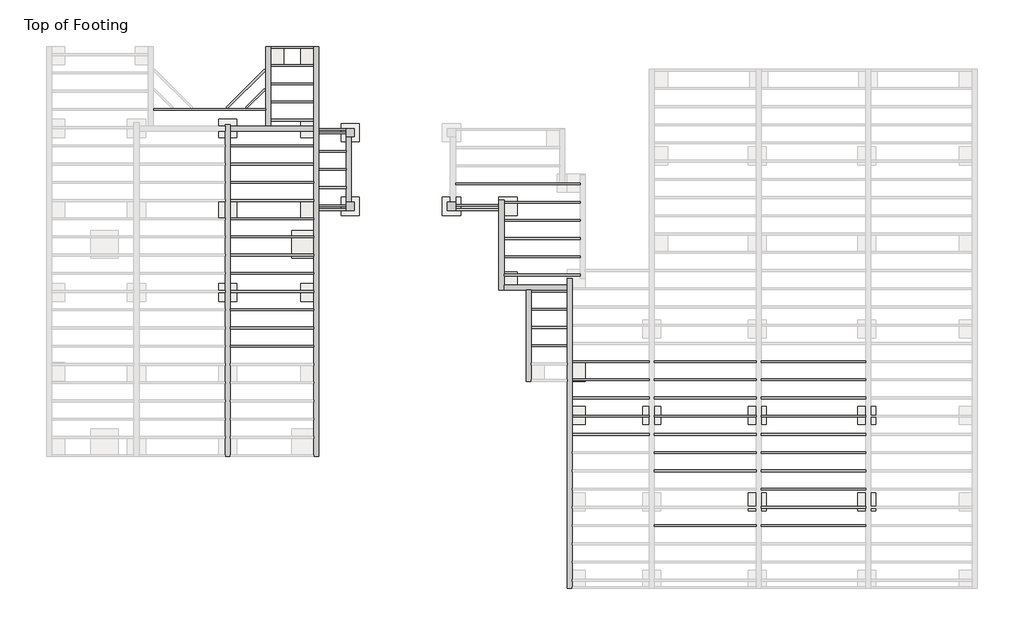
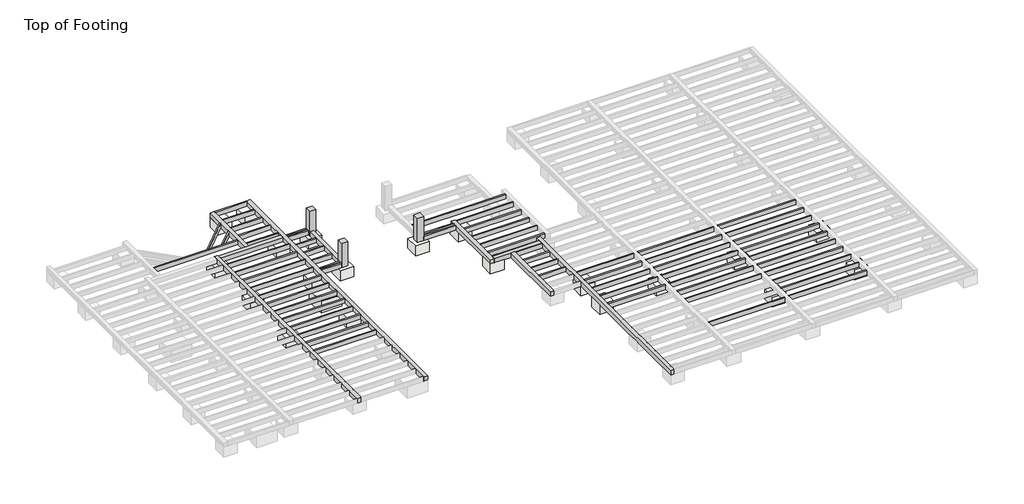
# One storey, part 2 of 3: 71 beams, 21 slabs, 3 columns.
"""IFC4 building model written with IfcOpenShell, lengths in millimetres."""

import ifcopenshell
import ifcopenshell.guid

model = None  # the IFC model being written
_history = None  # IfcOwnerHistory: only IFC2X3 demands one
_inside = {}  # id of a spatial element -> (the spatial element, [elements in it])
_under = {}  # id of a project, library or spatial element -> (it, [spatial elements below it])
_declared = {}  # id of a project -> (the project, [libraries it declares])
_typed = {}  # id of a type object -> (the type object, [elements of that type])
_made_of = {}  # id of a material, layer set ... -> (it, [elements and type objects made of it])


def new_model(schema):
    """Start an empty IFC model of exactly this schema.

    Asked for "IFC4X3", IfcOpenShell would pick the latest addendum, in which some entities
    have other attributes; the version numbers below select the first issue.
    IFC2X3 requires an IfcOwnerHistory on every rooted entity: one is made here for all.
    """
    global model, _history
    if schema == "IFC4X3":
        model = ifcopenshell.file(schema_version=(4, 3, 0, 0))
    else:
        model = ifcopenshell.file(schema=schema)
    _inside.clear()
    _under.clear()
    _declared.clear()
    _typed.clear()
    _made_of.clear()
    _history = None
    if model.schema == "IFC2X3":
        org = make("IfcOrganization", Name="unknown")
        user = make(
            "IfcPersonAndOrganization",
            ThePerson=make("IfcPerson", FamilyName="unknown"),
            TheOrganization=org,
        )
        app = make(
            "IfcApplication",
            ApplicationDeveloper=org,
            Version="unknown",
            ApplicationFullName="unknown",
            ApplicationIdentifier="unknown",
        )
        _history = make(
            "IfcOwnerHistory",
            OwningUser=user,
            OwningApplication=app,
            ChangeAction="ADDED",
            CreationDate=0,
        )
    return model


def make(cls, **values):
    """One entity of the class cls with the attributes given. An attribute that is None is left unset."""
    return model.create_entity(
        cls, **{name: value for name, value in values.items() if value is not None}
    )


def rooted(cls, **values):
    """An entity with a GlobalId (a new one), such as an element, a storey or a relation."""
    return make(cls, GlobalId=ifcopenshell.guid.new(), OwnerHistory=_history, **values)


def si_unit(unit_type, name, prefix=None):
    """IfcSIUnit, for example si_unit("LENGTHUNIT", "METRE", prefix="MILLI")."""
    return make("IfcSIUnit", UnitType=unit_type, Prefix=prefix, Name=name)


def assignment(units):
    """IfcUnitAssignment: the units of a project."""
    return None if units is None else make("IfcUnitAssignment", Units=units)


def point(xyz):
    """IfcCartesianPoint."""
    return None if xyz is None else make("IfcCartesianPoint", Coordinates=xyz)


def direction(xyz):
    """IfcDirection."""
    return None if xyz is None else make("IfcDirection", DirectionRatios=xyz)


def frame(location, z_axis=None, x_axis=None):
    """IfcAxis2Placement3D, a coordinate frame: its origin and axes. An axis left out is left unset."""
    return make(
        "IfcAxis2Placement3D",
        Location=point(location),
        Axis=direction(z_axis),
        RefDirection=direction(x_axis),
    )


def origin():
    """The frame at (0, 0, 0) with its axes left unset."""
    return frame((0.0, 0.0, 0.0))


def place(relative_to, where):
    """IfcLocalPlacement: puts the frame where relative to a parent placement (None: the world)."""
    return make(
        "IfcLocalPlacement", PlacementRelTo=relative_to, RelativePlacement=where
    )


def context(
    kind, dimensions, precision=None, world=None, true_north=None, identifier=None
):
    """IfcGeometricRepresentationContext, for example the 3D "Model" context."""
    return make(
        "IfcGeometricRepresentationContext",
        ContextIdentifier=identifier,
        ContextType=kind,
        CoordinateSpaceDimension=dimensions,
        Precision=precision,
        WorldCoordinateSystem=world,
        TrueNorth=true_north,
    )


def project(units=None, contexts=None):
    """IfcProject with its units and contexts."""
    return rooted(
        "IfcProject",
        Name="project",
        RepresentationContexts=contexts,
        UnitsInContext=assignment(units),
    )


def spatial(cls, under=None, at=None, **own):
    """A site, building, storey or space (cls), placed at a placement, below another one or the project."""
    s = rooted(cls, ObjectPlacement=at, **own)
    if under is not None:
        _under.setdefault(under.id(), (under, []))[1].append(s)
    return s


def polyline(points):
    """IfcPolyline through the points."""
    return make("IfcPolyline", Points=[point(p) for p in points])


def outline(outer, holes=None, kind="AREA"):
    """IfcArbitraryClosedProfileDef: a profile drawn as a closed curve; with holes, ...WithVoids."""
    if holes is None:
        return make("IfcArbitraryClosedProfileDef", ProfileType=kind, OuterCurve=outer)
    return make(
        "IfcArbitraryProfileDefWithVoids",
        ProfileType=kind,
        OuterCurve=outer,
        InnerCurves=holes,
    )


def extrude(swept, where, along, depth):
    """IfcExtrudedAreaSolid: the profile swept, set in the frame where, extruded along a direction by depth."""
    return make(
        "IfcExtrudedAreaSolid",
        SweptArea=swept,
        Position=where,
        ExtrudedDirection=direction(along),
        Depth=depth,
    )


def shape(context_of_items, identifier, shape_type, items):
    """IfcShapeRepresentation: the items that make up one representation, for example the "Body"."""
    return make(
        "IfcShapeRepresentation",
        ContextOfItems=context_of_items,
        RepresentationIdentifier=identifier,
        RepresentationType=shape_type,
        Items=items,
    )


def source(mapping_origin, context_of_items, identifier, shape_type, items):
    """IfcRepresentationMap: a shape defined once, which mapped items show again and again."""
    return make(
        "IfcRepresentationMap",
        MappingOrigin=mapping_origin,
        MappedRepresentation=shape(context_of_items, identifier, shape_type, items),
    )


def transform(
    local_origin,
    x_axis=None,
    y_axis=None,
    z_axis=None,
    scale=None,
    scale2=None,
    scale3=None,
    uniform=True,
):
    """IfcCartesianTransformationOperator3D, or its non-uniform kind. x_axis, y_axis, z_axis: its Axis1, 2, 3."""
    if uniform:
        return make(
            "IfcCartesianTransformationOperator3D",
            Axis1=direction(x_axis),
            Axis2=direction(y_axis),
            LocalOrigin=point(local_origin),
            Scale=scale,
            Axis3=direction(z_axis),
        )
    return make(
        "IfcCartesianTransformationOperator3DnonUniform",
        Axis1=direction(x_axis),
        Axis2=direction(y_axis),
        LocalOrigin=point(local_origin),
        Scale=scale,
        Axis3=direction(z_axis),
        Scale2=scale2,
        Scale3=scale3,
    )


def mapped(mapping_source, mapping_target):
    """IfcMappedItem: shows the shape of a source again, moved by a transform."""
    return make(
        "IfcMappedItem", MappingSource=mapping_source, MappingTarget=mapping_target
    )


def made_of(thing, what):
    """Note that an element or type object is made of a material, layer set ...; save() writes the relation."""
    if what is not None:
        _made_of.setdefault(what.id(), (what, []))[1].append(thing)
    return thing


def element(
    cls,
    number,
    at=None,
    inside=None,
    cuts=None,
    type_object=None,
    material=None,
    context=None,
    identifier="Body",
    shape_type=None,
    held_by="IfcProductDefinitionShape",
    body=None,
    shapes=None,
    **own,
):
    """One element of the class cls, such as IfcWall. Its Tag is "e" and its number.

    at: its placement. inside: the storey or other place that contains it. cuts: it is an
    opening in that element (IfcRelVoidsElement). A single representation is given by context,
    identifier, shape_type and body (its items); several are given by shapes. held_by: the class
    of the entity that holds the representations. save() writes the other relations.
    """
    e = rooted(cls, Tag="e%d" % number, ObjectPlacement=at, **own)
    if body is not None:
        shapes = [shape(context, identifier, shape_type, body)]
    if shapes is not None:
        e.Representation = make(held_by, Representations=shapes)
    if inside is not None:
        _inside.setdefault(inside.id(), (inside, []))[1].append(e)
    if cuts is not None:
        rooted(
            "IfcRelVoidsElement", RelatingBuildingElement=cuts, RelatedOpeningElement=e
        )
    if type_object is not None:
        _typed.setdefault(type_object.id(), (type_object, []))[1].append(e)
    return made_of(e, material)


def aggregate(whole, parts):
    """IfcRelAggregates: a whole, such as a stair, and the parts it consists of."""
    return rooted("IfcRelAggregates", RelatingObject=whole, RelatedObjects=parts)


def save(model, path):
    """Write the relations noted so far, then the file.

    IfcRelAggregates (storeys below a building ...), IfcRelContainedInSpatialStructure (elements
    in a storey), IfcRelDefinesByType, IfcRelAssociatesMaterial and IfcRelDeclares: one each for
    every whole, place, type object, material and project.
    """
    for whole, parts in _under.values():
        aggregate(whole, parts)
    for where, things in _inside.values():
        rooted(
            "IfcRelContainedInSpatialStructure",
            RelatedElements=things,
            RelatingStructure=where,
        )
    for kind, things in _typed.values():
        rooted("IfcRelDefinesByType", RelatedObjects=things, RelatingType=kind)
    for what, things in _made_of.values():
        rooted("IfcRelAssociatesMaterial", RelatedObjects=things, RelatingMaterial=what)
    for by, libraries in _declared.values():
        rooted("IfcRelDeclares", RelatingContext=by, RelatedDefinitions=libraries)
    model.write(path)


def dimension_lumber_1_2x_x6_41abae22(model_context):
    return source(origin(), model_context, "Body", "SweptSolid", [
        extrude(outline(polyline([(1249.9848, 19.05), (1249.9848, -19.05), (-1249.9848, -19.05), (-1249.9848, 19.05), (1249.9848, 19.05)])), frame((0.0, 0.0, -69.85), z_axis=(0.0, 0.0, 1.0), x_axis=(1.0, 0.0, 0.0)), (0.0, 0.0, 1.0), 139.7),
    ])


def dimension_lumber_1_2x_x6_194c576a(model_context):
    return source(origin(), model_context, "Body", "SweptSolid", [
        extrude(outline(polyline([(1162.05, 19.05), (1162.05, -19.05), (-1162.05, -19.05), (-1162.05, 19.05), (1162.05, 19.05)])), frame((0.0, 0.0, -69.85), z_axis=(0.0, 0.0, 1.0), x_axis=(1.0, 0.0, 0.0)), (0.0, 0.0, 1.0), 139.7),
    ])


def dimension_lumber_1_2x_x6_e8a41e7e(model_context):
    return source(origin(), model_context, "Body", "SweptSolid", [
        extrude(outline(polyline([(930.275, 19.05), (930.275, -19.05), (-930.275, -19.05), (-930.275, 19.05), (930.275, 19.05)])), frame((0.0, 0.0, -69.85), z_axis=(0.0, 0.0, 1.0), x_axis=(1.0, 0.0, 0.0)), (0.0, 0.0, 1.0), 139.7),
    ])


def dimension_lumber_1_2x_x6_c52428c3(model_context):
    return source(origin(), model_context, "Body", "SweptSolid", [
        extrude(outline(polyline([(574.2575614, 19.05), (574.2575614, -19.05), (-628.1390981, -19.05), (-628.1390981, 19.05), (574.2575614, 19.05)])), frame((0.0, 0.0, -69.85), z_axis=(0.0, 0.0, 1.0), x_axis=(1.0, 0.0, 0.0)), (0.0, 0.0, 1.0), 139.7),
    ])


def dimension_lumber_1_2x_x6_213a55a6(model_context):
    return source(origin(), model_context, "Body", "SweptSolid", [
        extrude(outline(polyline([(270.1501681, 19.05), (270.1501681, -19.05), (-315.3180038, -19.05), (-315.3180038, 19.05), (270.1501681, 19.05)])), frame((0.0, 0.0, -69.85), z_axis=(0.0, 0.0, 1.0), x_axis=(1.0, 0.0, 0.0)), (0.0, 0.0, 1.0), 139.7),
    ])


def dimension_lumber_1_2x_x6_e73aef81(model_context):
    return source(origin(), model_context, "Body", "SweptSolid", [
        extrude(outline(polyline([(333.3749994, 19.05), (333.3749994, -19.05), (-276.225, -19.05), (-276.225, 19.05), (333.3749994, 19.05)])), frame((0.0, 0.0, -69.85), z_axis=(0.0, 0.0, 1.0), x_axis=(1.0, 0.0, 0.0)), (0.0, 0.0, 1.0), 139.7),
    ])


def dimension_lumber_1_2x_x6_f9579439(model_context):
    return source(origin(), model_context, "Body", "SweptSolid", [
        extrude(outline(polyline([(850.9, 19.05), (850.9, -19.05), (-850.9, -19.05), (-850.9, 19.05), (850.9, 19.05)])), frame((0.0, 0.0, -69.85), z_axis=(0.0, 0.0, 1.0), x_axis=(1.0, 0.0, 0.0)), (0.0, 0.0, 1.0), 139.7),
    ])


def dimension_lumber_1_2x_x6_1f1d5409(model_context):
    return source(origin(), model_context, "Body", "SweptSolid", [
        extrude(outline(polyline([(304.8, 19.05), (304.8, -19.05), (-304.8, -19.05), (-304.8, 19.05), (304.8, 19.05)])), frame((0.0, 0.0, -69.85), z_axis=(0.0, 0.0, 1.0), x_axis=(1.0, 0.0, 0.0)), (0.0, 0.0, 1.0), 139.7),
    ])


def dimension_lumber_1_2x_x6_5ffdb31a(model_context):
    return source(origin(), model_context, "Body", "SweptSolid", [
        extrude(outline(polyline([(1390.65, 19.05), (1390.65, -19.05), (-1390.65, -19.05), (-1390.65, 19.05), (1390.65, 19.05)])), frame((0.0, 0.0, -69.85), z_axis=(0.0, 0.0, 1.0), x_axis=(1.0, 0.0, 0.0)), (0.0, 0.0, 1.0), 139.7),
    ])


def dimension_lumber_1_2x_x6_848c9500(model_context):
    return source(origin(), model_context, "Body", "SweptSolid", [
        extrude(outline(polyline([(857.25, 19.05), (857.25, -19.05), (-857.25, -19.05), (-857.25, 19.05), (857.25, 19.05)])), frame((0.0, 0.0, -69.85), z_axis=(0.0, 0.0, 1.0), x_axis=(1.0, 0.0, 0.0)), (0.0, 0.0, 1.0), 139.7),
    ])


def dimension_lumber_1_2x_x6_d0225624(model_context):
    return source(origin(), model_context, "Body", "SweptSolid", [
        extrude(outline(polyline([(400.05, 19.05), (400.05, -19.05), (-400.05, -19.05), (-400.05, 19.05), (400.05, 19.05)])), frame((0.0, 0.0, -69.85), z_axis=(0.0, 0.0, 1.0), x_axis=(1.0, 0.0, 0.0)), (0.0, 0.0, 1.0), 139.7),
    ])


def dimension_lumber_1_2x_x6_05b95841(model_context):
    return source(origin(), model_context, "Body", "SweptSolid", [
        extrude(outline(polyline([(454.025, 19.05), (454.025, -19.05), (-511.1749994, -19.05), (-511.1749994, 19.05), (454.025, 19.05)])), frame((0.0, 0.0, -69.85), z_axis=(0.0, 0.0, 1.0), x_axis=(1.0, 0.0, 0.0)), (0.0, 0.0, 1.0), 139.7),
    ])


def dimension_lumber_1_2x_x6_9289383a(model_context):
    return source(origin(), model_context, "Body", "SweptSolid", [
        extrude(outline(polyline([(1133.475, 19.05), (1133.475, -19.05), (-1133.475, -19.05), (-1133.475, 19.05), (1133.475, 19.05)])), frame((0.0, 0.0, -69.85), z_axis=(0.0, 0.0, 1.0), x_axis=(1.0, 0.0, 0.0)), (0.0, 0.0, 1.0), 139.7),
    ])


def dimension_lumber_1_2x_x6_4de82955(model_context):
    return source(origin(), model_context, "Body", "SweptSolid", [
        extrude(outline(polyline([(451.3326, 19.05), (451.3326, -19.05), (-508.4826, -19.05), (-508.4826, 19.05), (451.3326, 19.05)])), frame((0.0, 0.0, -69.85), z_axis=(0.0, 0.0, 1.0), x_axis=(1.0, 0.0, 0.0)), (0.0, 0.0, 1.0), 139.7),
    ])


def dimension_lumber_1_2x_x6_9cb2d545(model_context):
    return source(origin(), model_context, "Body", "SweptSolid", [
        extrude(outline(polyline([(479.9076, 19.05), (479.9076, -19.05), (-479.9076, -19.05), (-479.9076, 19.05), (479.9076, 19.05)])), frame((0.0, 0.0, -69.85), z_axis=(0.0, 0.0, 1.0), x_axis=(1.0, 0.0, 0.0)), (0.0, 0.0, 1.0), 139.7),
    ])


def dimension_lumber_3_2x_x6_8adfc0e5(model_context):
    return source(origin(), model_context, "Body", "SweptSolid", [
        extrude(outline(polyline([(930.275, -57.15), (-930.275, -57.15), (-930.275, 57.15), (930.275, 57.15), (930.275, -57.15)])), frame((0.0, 0.0, -69.85), z_axis=(0.0, 0.0, 1.0), x_axis=(1.0, 0.0, 0.0)), (0.0, 0.0, 1.0), 139.7),
    ])


def dimension_lumber_3_2x_x6_fe3bc0c2(model_context):
    return source(origin(), model_context, "Body", "SweptSolid", [
        extrude(outline(polyline([(746.7854, -57.15), (-1024.8646, -57.15), (-1024.8646, 57.15), (746.7854, 57.15), (746.7854, -57.15)])), frame((0.0, 0.0, -69.85), z_axis=(0.0, 0.0, 1.0), x_axis=(1.0, 0.0, 0.0)), (0.0, 0.0, 1.0), 139.7),
    ])


def dimension_lumber_3_2x_x6_7889dbe4(model_context):
    return source(origin(), model_context, "Body", "SweptSolid", [
        extrude(outline(polyline([(4603.75, 57.15), (4603.75, -57.15), (-4540.25, -57.15), (-4540.25, 57.15), (4603.75, 57.15)])), frame((0.0, 0.0, -69.85), z_axis=(0.0, 0.0, 1.0), x_axis=(1.0, 0.0, 0.0)), (0.0, 0.0, 1.0), 139.7),
    ])


def dimension_lumber_3_2x_x6_e14e15ca(model_context):
    return source(origin(), model_context, "Body", "SweptSolid", [
        extrude(outline(polyline([(3698.875, 57.15), (3698.875, -57.15), (-3697.605, -57.15), (-3697.605, 57.15), (3698.875, 57.15)])), frame((0.0, 0.0, -69.85), z_axis=(0.0, 0.0, 1.0), x_axis=(1.0, 0.0, 0.0)), (0.0, 0.0, 1.0), 139.7),
    ])


def dimension_lumber_3_2x_x6_f6200c4b(model_context):
    return source(origin(), model_context, "Body", "SweptSolid", [
        extrude(outline(polyline([(711.2, 57.15), (711.2, -57.15), (-749.3, -57.15), (-749.3, 57.15), (711.2, 57.15)])), frame((0.0, 0.0, -69.85), z_axis=(0.0, 0.0, 1.0), x_axis=(1.0, 0.0, 0.0)), (0.0, 0.0, 1.0), 139.7),
    ])


def dimension_lumber_3_2x_x6_c5758202(model_context):
    return source(origin(), model_context, "Body", "SweptSolid", [
        extrude(outline(polyline([(1011.9868, 57.15), (1011.9868, -57.15), (-999.2868, -57.15), (-999.2868, 57.15), (1011.9868, 57.15)])), frame((0.0, 0.0, -69.85), z_axis=(0.0, 0.0, 1.0), x_axis=(1.0, 0.0, 0.0)), (0.0, 0.0, 1.0), 139.7),
    ])


def dimension_lumber_3_2x_x6_f7559ddf(model_context):
    return source(origin(), model_context, "Body", "SweptSolid", [
        extrude(outline(polyline([(702.564, 57.15), (702.564, -57.15), (-751.586, -57.15), (-751.586, 57.15), (702.564, 57.15)])), frame((0.0, 0.0, -69.85), z_axis=(0.0, 0.0, 1.0), x_axis=(1.0, 0.0, 0.0)), (0.0, 0.0, 1.0), 139.7),
    ])


def dimension_lumber_3_2x_x6_ef7e8fa2(model_context):
    return source(origin(), model_context, "Body", "SweptSolid", [
        extrude(outline(polyline([(1054.1, 57.15), (1054.1, -57.15), (-977.9, -57.15), (-977.9, 57.15), (1054.1, 57.15)])), frame((0.0, 0.0, -69.85), z_axis=(0.0, 0.0, 1.0), x_axis=(1.0, 0.0, 0.0)), (0.0, 0.0, 1.0), 139.7),
    ])


def dimension_lumber_3_2x_x6_6d176412(model_context):
    return source(origin(), model_context, "Body", "SweptSolid", [
        extrude(outline(polyline([(3456.559, 57.15), (3456.559, -57.15), (-3452.241, -57.15), (-3452.241, 57.15), (3456.559, 57.15)])), frame((0.0, 0.0, -69.85), z_axis=(0.0, 0.0, 1.0), x_axis=(1.0, 0.0, 0.0)), (0.0, 0.0, 1.0), 139.7),
    ])


def dimension_lumber_column_8x8_2579570d(model_context):
    return source(origin(), model_context, "Body", "SweptSolid", [
        extrude(outline(polyline([(92.075, 92.075), (92.075, -92.075), (-92.075, -92.075), (-92.075, 92.075), (92.075, 92.075)])), frame((0.0, 0.0, -158.75), z_axis=(0.0, 0.0, 1.0), x_axis=(1.0, 0.0, 0.0)), (0.0, 0.0, 1.0), 768.35),
    ])


def footing_rectangular_16x16x14_90ff128c(model_context):
    return source(origin(), model_context, "Body", "SweptSolid", [
        extrude(outline(polyline([(203.2, 203.2), (203.2, -203.2), (-203.2, -203.2), (-203.2, 203.2), (203.2, 203.2)])), frame((0.0, 0.0, -304.8), z_axis=(0.0, 0.0, 1.0), x_axis=(1.0, 0.0, 0.0)), (0.0, 0.0, 1.0), 304.8),
    ])


def footing_rectangular_16x16x14_b055683a(model_context):
    return source(origin(), model_context, "Body", "SweptSolid", [
        extrude(outline(polyline([(203.2, -203.2), (-203.2, -203.2), (-203.2, 203.2), (203.2, 203.2), (203.2, -203.2)])), frame((0.0, 0.0, -304.8), z_axis=(0.0, 0.0, 1.0), x_axis=(1.0, 0.0, 0.0)), (0.0, 0.0, 1.0), 304.8),
    ])


def footing_rectangular_pergola_footing_7bc68983(model_context):
    return source(origin(), model_context, "Body", "SweptSolid", [
        extrude(outline(polyline([(304.8, 304.8), (304.8, -304.8), (-304.8, -304.8), (-304.8, 304.8), (304.8, 304.8)])), frame((0.0, 0.0, -355.6), z_axis=(0.0, 0.0, 1.0), x_axis=(1.0, 0.0, 0.0)), (0.0, 0.0, 1.0), 355.6),
    ])


model = new_model("IFC4")

# Units and contexts
model_context = context("Model", 3, world=origin())
ifc_project = project(units=[si_unit("LENGTHUNIT", "METRE", prefix="MILLI")], contexts=[model_context])

# Site, building, storey
site = spatial("IfcSite", under=ifc_project)
building = spatial("IfcBuilding", under=site)
storey = spatial("IfcBuildingStorey", under=building, Name="Top of Footing", Elevation=-158.75)

# Beams
placement = place(None, origin())
dimension_lumber_1_2x_x6_shape = dimension_lumber_1_2x_x6_41abae22(model_context)
element("IfcBeam", 1, ObjectType="Dimension Lumber (1) 2x : x6", at=placement, inside=storey, context=model_context, shape_type="MappedRepresentation", body=[
    mapped(dimension_lumber_1_2x_x6_shape, transform((291.4788706, -2598.9939898, -88.9), x_axis=(1.0, 0.0, 0.0), y_axis=(0.0, 1.0, 0.0), z_axis=(0.0, 0.0, 1.0))),
])
dimension_lumber_1_2x_x6_2_shape = dimension_lumber_1_2x_x6_194c576a(model_context)
element("IfcBeam", 2, ObjectType="Dimension Lumber (1) 2x : x6", at=placement, inside=storey, context=model_context, shape_type="MappedRepresentation", body=[
    mapped(dimension_lumber_1_2x_x6_2_shape, transform((13753.4788706, -8225.0939898, -88.9), x_axis=(1.0, 0.0, 0.0), y_axis=(0.0, 1.0, 0.0), z_axis=(0.0, 0.0, 1.0))),
])
element("IfcBeam", 3, ObjectType="Dimension Lumber (1) 2x : x6", at=placement, inside=storey, context=model_context, shape_type="MappedRepresentation", body=[
    mapped(dimension_lumber_1_2x_x6_2_shape, transform((13753.4788706, -8631.4939898, -88.9), x_axis=(1.0, 0.0, 0.0), y_axis=(0.0, 1.0, 0.0), z_axis=(0.0, 0.0, 1.0))),
])
element("IfcBeam", 4, ObjectType="Dimension Lumber (1) 2x : x6", at=placement, inside=storey, context=model_context, shape_type="MappedRepresentation", body=[
    mapped(dimension_lumber_1_2x_x6_2_shape, transform((13753.4788706, -9037.8939898, -88.9), x_axis=(1.0, 0.0, 0.0), y_axis=(0.0, 1.0, 0.0), z_axis=(0.0, 0.0, 1.0))),
])
element("IfcBeam", 5, ObjectType="Dimension Lumber (1) 2x : x6", at=placement, inside=storey, context=model_context, shape_type="MappedRepresentation", body=[
    mapped(dimension_lumber_1_2x_x6_2_shape, transform((13753.4788706, -9444.2939898, -88.9), x_axis=(1.0, 0.0, 0.0), y_axis=(0.0, 1.0, 0.0), z_axis=(0.0, 0.0, 1.0))),
])
element("IfcBeam", 6, ObjectType="Dimension Lumber (1) 2x : x6", at=placement, inside=storey, context=model_context, shape_type="MappedRepresentation", body=[
    mapped(dimension_lumber_1_2x_x6_2_shape, transform((13753.4788706, -9850.6939898, -88.9), x_axis=(1.0, 0.0, 0.0), y_axis=(0.0, 1.0, 0.0), z_axis=(0.0, 0.0, 1.0))),
])
element("IfcBeam", 7, ObjectType="Dimension Lumber (1) 2x : x6", at=placement, inside=storey, context=model_context, shape_type="MappedRepresentation", body=[
    mapped(dimension_lumber_1_2x_x6_2_shape, transform((13753.4788706, -10257.0939898, -88.9), x_axis=(1.0, 0.0, 0.0), y_axis=(0.0, 1.0, 0.0), z_axis=(0.0, 0.0, 1.0))),
])
element("IfcBeam", 8, ObjectType="Dimension Lumber (1) 2x : x6", at=placement, inside=storey, context=model_context, shape_type="MappedRepresentation", body=[
    mapped(dimension_lumber_1_2x_x6_2_shape, transform((13753.4788706, -10663.4939898, -88.9), x_axis=(1.0, 0.0, 0.0), y_axis=(0.0, 1.0, 0.0), z_axis=(0.0, 0.0, 1.0))),
])
element("IfcBeam", 9, ObjectType="Dimension Lumber (1) 2x : x6", at=placement, inside=storey, context=model_context, shape_type="MappedRepresentation", body=[
    mapped(dimension_lumber_1_2x_x6_2_shape, transform((13753.4788706, -11069.8939898, -88.9), x_axis=(1.0, 0.0, 0.0), y_axis=(0.0, 1.0, 0.0), z_axis=(0.0, 0.0, 1.0))),
])
element("IfcBeam", 10, ObjectType="Dimension Lumber (1) 2x : x6", at=placement, inside=storey, context=model_context, shape_type="MappedRepresentation", body=[
    mapped(dimension_lumber_1_2x_x6_2_shape, transform((13753.4788706, -11476.2939898, -88.9), x_axis=(1.0, 0.0, 0.0), y_axis=(0.0, 1.0, 0.0), z_axis=(0.0, 0.0, 1.0))),
])
element("IfcBeam", 11, ObjectType="Dimension Lumber (1) 2x : x6", at=placement, inside=storey, context=model_context, shape_type="MappedRepresentation", body=[
    mapped(dimension_lumber_1_2x_x6_2_shape, transform((13753.4788706, -11882.6939898, -88.9), x_axis=(1.0, 0.0, 0.0), y_axis=(0.0, 1.0, 0.0), z_axis=(0.0, 0.0, 1.0))),
])
dimension_lumber_1_2x_x6_3_shape = dimension_lumber_1_2x_x6_e8a41e7e(model_context)
element("IfcBeam", 12, ObjectType="Dimension Lumber (1) 2x : x6", at=placement, inside=storey, context=model_context, shape_type="MappedRepresentation", body=[
    mapped(dimension_lumber_1_2x_x6_3_shape, transform((1685.3038706, -3411.7939898, -88.9), x_axis=(1.0, 0.0, 0.0), y_axis=(0.0, 1.0, 0.0), z_axis=(0.0, 0.0, 1.0))),
])
element("IfcBeam", 13, ObjectType="Dimension Lumber (1) 2x : x6", at=placement, inside=storey, context=model_context, shape_type="MappedRepresentation", body=[
    mapped(dimension_lumber_1_2x_x6_3_shape, transform((1685.3038706, -3818.1939898, -88.9), x_axis=(1.0, 0.0, 0.0), y_axis=(0.0, 1.0, 0.0), z_axis=(0.0, 0.0, 1.0))),
])
element("IfcBeam", 14, ObjectType="Dimension Lumber (1) 2x : x6", at=placement, inside=storey, context=model_context, shape_type="MappedRepresentation", body=[
    mapped(dimension_lumber_1_2x_x6_3_shape, transform((1685.3038706, -4224.5939898, -88.9), x_axis=(1.0, 0.0, 0.0), y_axis=(0.0, 1.0, 0.0), z_axis=(0.0, 0.0, 1.0))),
])
element("IfcBeam", 15, ObjectType="Dimension Lumber (1) 2x : x6", at=placement, inside=storey, context=model_context, shape_type="MappedRepresentation", body=[
    mapped(dimension_lumber_1_2x_x6_3_shape, transform((1685.3038706, -4630.9939898, -88.9), x_axis=(1.0, 0.0, 0.0), y_axis=(0.0, 1.0, 0.0), z_axis=(0.0, 0.0, 1.0))),
])
element("IfcBeam", 16, ObjectType="Dimension Lumber (1) 2x : x6", at=placement, inside=storey, context=model_context, shape_type="MappedRepresentation", body=[
    mapped(dimension_lumber_1_2x_x6_3_shape, transform((1685.3038706, -5037.3939898, -88.9), x_axis=(1.0, 0.0, 0.0), y_axis=(0.0, 1.0, 0.0), z_axis=(0.0, 0.0, 1.0))),
])
element("IfcBeam", 17, ObjectType="Dimension Lumber (1) 2x : x6", at=placement, inside=storey, context=model_context, shape_type="MappedRepresentation", body=[
    mapped(dimension_lumber_1_2x_x6_3_shape, transform((1685.3038706, -5443.7939898, -88.9), x_axis=(1.0, 0.0, 0.0), y_axis=(0.0, 1.0, 0.0), z_axis=(0.0, 0.0, 1.0))),
])
element("IfcBeam", 18, ObjectType="Dimension Lumber (1) 2x : x6", at=placement, inside=storey, context=model_context, shape_type="MappedRepresentation", body=[
    mapped(dimension_lumber_1_2x_x6_3_shape, transform((1685.3038706, -5850.1939898, -88.9), x_axis=(1.0, 0.0, 0.0), y_axis=(0.0, 1.0, 0.0), z_axis=(0.0, 0.0, 1.0))),
])
element("IfcBeam", 19, ObjectType="Dimension Lumber (1) 2x : x6", at=placement, inside=storey, context=model_context, shape_type="MappedRepresentation", body=[
    mapped(dimension_lumber_1_2x_x6_3_shape, transform((1685.3038706, -6256.5939898, -88.9), x_axis=(1.0, 0.0, 0.0), y_axis=(0.0, 1.0, 0.0), z_axis=(0.0, 0.0, 1.0))),
])
element("IfcBeam", 20, ObjectType="Dimension Lumber (1) 2x : x6", at=placement, inside=storey, context=model_context, shape_type="MappedRepresentation", body=[
    mapped(dimension_lumber_1_2x_x6_3_shape, transform((1685.3038706, -6662.9939898, -88.9), x_axis=(1.0, 0.0, 0.0), y_axis=(0.0, 1.0, 0.0), z_axis=(0.0, 0.0, 1.0))),
])
element("IfcBeam", 21, ObjectType="Dimension Lumber (1) 2x : x6", at=placement, inside=storey, context=model_context, shape_type="MappedRepresentation", body=[
    mapped(dimension_lumber_1_2x_x6_3_shape, transform((1685.3038706, -7069.3939898, -88.9), x_axis=(1.0, 0.0, 0.0), y_axis=(0.0, 1.0, 0.0), z_axis=(0.0, 0.0, 1.0))),
])
element("IfcBeam", 22, ObjectType="Dimension Lumber (1) 2x : x6", at=placement, inside=storey, context=model_context, shape_type="MappedRepresentation", body=[
    mapped(dimension_lumber_1_2x_x6_3_shape, transform((1685.3038706, -7475.7939898, -88.9), x_axis=(1.0, 0.0, 0.0), y_axis=(0.0, 1.0, 0.0), z_axis=(0.0, 0.0, 1.0))),
])
element("IfcBeam", 23, ObjectType="Dimension Lumber (1) 2x : x6", at=placement, inside=storey, context=model_context, shape_type="MappedRepresentation", body=[
    mapped(dimension_lumber_1_2x_x6_3_shape, transform((1685.3038706, -7882.1939898, -88.9), x_axis=(1.0, 0.0, 0.0), y_axis=(0.0, 1.0, 0.0), z_axis=(0.0, 0.0, 1.0))),
])
dimension_lumber_1_2x_x6_4_shape = dimension_lumber_1_2x_x6_c52428c3(model_context)
element("IfcBeam", 24, ObjectType="Dimension Lumber (1) 2x : x6", at=placement, inside=storey, context=model_context, shape_type="MappedRepresentation", body=[
    mapped(dimension_lumber_1_2x_x6_4_shape, transform((1121.9318706, -2122.3121898, -88.9), x_axis=(0.7071067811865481, 0.7071067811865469, 0.0), y_axis=(-0.7071067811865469, 0.7071067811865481, 0.0), z_axis=(0.0, 0.0, 1.0))),
])
dimension_lumber_1_2x_x6_5_shape = dimension_lumber_1_2x_x6_213a55a6(model_context)
element("IfcBeam", 25, ObjectType="Dimension Lumber (1) 2x : x6", at=placement, inside=storey, context=model_context, shape_type="MappedRepresentation", body=[
    mapped(dimension_lumber_1_2x_x6_5_shape, transform((1336.9682706, -2337.3485898, -88.9), x_axis=(0.7071067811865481, 0.7071067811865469, 0.0), y_axis=(-0.7071067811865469, 0.7071067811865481, 0.0), z_axis=(0.0, 0.0, 1.0))),
])
dimension_lumber_1_2x_x6_6_shape = dimension_lumber_1_2x_x6_e73aef81(model_context)
element("IfcBeam", 26, ObjectType="Dimension Lumber (1) 2x : x6", at=placement, inside=storey, context=model_context, shape_type="MappedRepresentation", body=[
    mapped(dimension_lumber_1_2x_x6_6_shape, transform((3006.1038706, -3126.0439898, -88.9), x_axis=(1.0, 0.0, 0.0), y_axis=(0.0, 1.0, 0.0), z_axis=(0.0, 0.0, 1.0))),
])
element("IfcBeam", 27, ObjectType="Dimension Lumber (1) 2x : x6", at=placement, inside=storey, context=model_context, shape_type="MappedRepresentation", body=[
    mapped(dimension_lumber_1_2x_x6_6_shape, transform((3006.1038706, -4751.6439898, -88.9), x_axis=(1.0, 0.0, 0.0), y_axis=(0.0, 1.0, 0.0), z_axis=(0.0, 0.0, 1.0))),
])
element("IfcBeam", 28, ObjectType="Dimension Lumber (1) 2x : x6", at=placement, inside=storey, context=model_context, shape_type="MappedRepresentation", body=[
    mapped(dimension_lumber_1_2x_x6_6_shape, transform((3006.1038706, -4834.1939898, -88.9), x_axis=(1.0, 0.0, 0.0), y_axis=(0.0, 1.0, 0.0), z_axis=(0.0, 0.0, 1.0))),
])
element("IfcBeam", 29, ObjectType="Dimension Lumber (1) 2x : x6", at=placement, inside=storey, context=model_context, shape_type="MappedRepresentation", body=[
    mapped(dimension_lumber_1_2x_x6_6_shape, transform((3006.1038706, -3043.4939898, -88.9), x_axis=(1.0, 0.0, 0.0), y_axis=(0.0, 1.0, 0.0), z_axis=(0.0, 0.0, 1.0))),
])
dimension_lumber_1_2x_x6_7_shape = dimension_lumber_1_2x_x6_f9579439(model_context)
element("IfcBeam", 30, ObjectType="Dimension Lumber (1) 2x : x6", at=placement, inside=storey, context=model_context, shape_type="MappedRepresentation", body=[
    mapped(dimension_lumber_1_2x_x6_7_shape, transform((7708.2788706, -4669.0939898, -88.9), x_axis=(1.0, 0.0, 0.0), y_axis=(0.0, 1.0, 0.0), z_axis=(0.0, 0.0, 1.0))),
])
element("IfcBeam", 31, ObjectType="Dimension Lumber (1) 2x : x6", at=placement, inside=storey, context=model_context, shape_type="MappedRepresentation", body=[
    mapped(dimension_lumber_1_2x_x6_7_shape, transform((7708.2788706, -5075.4939898, -88.9), x_axis=(1.0, 0.0, 0.0), y_axis=(0.0, 1.0, 0.0), z_axis=(0.0, 0.0, 1.0))),
])
element("IfcBeam", 32, ObjectType="Dimension Lumber (1) 2x : x6", at=placement, inside=storey, context=model_context, shape_type="MappedRepresentation", body=[
    mapped(dimension_lumber_1_2x_x6_7_shape, transform((7708.2788706, -5481.8939898, -88.9), x_axis=(1.0, 0.0, 0.0), y_axis=(0.0, 1.0, 0.0), z_axis=(0.0, 0.0, 1.0))),
])
element("IfcBeam", 33, ObjectType="Dimension Lumber (1) 2x : x6", at=placement, inside=storey, context=model_context, shape_type="MappedRepresentation", body=[
    mapped(dimension_lumber_1_2x_x6_7_shape, transform((7708.2788706, -5888.2939898, -88.9), x_axis=(1.0, 0.0, 0.0), y_axis=(0.0, 1.0, 0.0), z_axis=(0.0, 0.0, 1.0))),
])
element("IfcBeam", 34, ObjectType="Dimension Lumber (1) 2x : x6", at=placement, inside=storey, context=model_context, shape_type="MappedRepresentation", body=[
    mapped(dimension_lumber_1_2x_x6_7_shape, transform((7708.2788706, -6294.6939898, -88.9), x_axis=(1.0, 0.0, 0.0), y_axis=(0.0, 1.0, 0.0), z_axis=(0.0, 0.0, 1.0))),
])
dimension_lumber_1_2x_x6_8_shape = dimension_lumber_1_2x_x6_1f1d5409(model_context)
element("IfcBeam", 35, ObjectType="Dimension Lumber (1) 2x : x6", at=placement, inside=storey, context=model_context, shape_type="MappedRepresentation", body=[
    mapped(dimension_lumber_1_2x_x6_8_shape, transform((3034.6788706, -3532.4439898, -88.9), x_axis=(1.0, 0.0, 0.0), y_axis=(0.0, 1.0, 0.0), z_axis=(0.0, 0.0, 1.0))),
])
element("IfcBeam", 36, ObjectType="Dimension Lumber (1) 2x : x6", at=placement, inside=storey, context=model_context, shape_type="MappedRepresentation", body=[
    mapped(dimension_lumber_1_2x_x6_8_shape, transform((3034.6788706, -3938.8439898, -88.9), x_axis=(1.0, 0.0, 0.0), y_axis=(0.0, 1.0, 0.0), z_axis=(0.0, 0.0, 1.0))),
])
element("IfcBeam", 37, ObjectType="Dimension Lumber (1) 2x : x6", at=placement, inside=storey, context=model_context, shape_type="MappedRepresentation", body=[
    mapped(dimension_lumber_1_2x_x6_8_shape, transform((3034.6788706, -4345.2439898, -88.9), x_axis=(1.0, 0.0, 0.0), y_axis=(0.0, 1.0, 0.0), z_axis=(0.0, 0.0, 1.0))),
])
dimension_lumber_1_2x_x6_9_shape = dimension_lumber_1_2x_x6_5ffdb31a(model_context)
element("IfcBeam", 38, ObjectType="Dimension Lumber (1) 2x : x6", at=placement, inside=storey, context=model_context, shape_type="MappedRepresentation", body=[
    mapped(dimension_lumber_1_2x_x6_9_shape, transform((7168.5288706, -4262.6939898, -88.9), x_axis=(1.0, 0.0, 0.0), y_axis=(0.0, 1.0, 0.0), z_axis=(0.0, 0.0, 1.0))),
])
dimension_lumber_1_2x_x6_10_shape = dimension_lumber_1_2x_x6_848c9500(model_context)
element("IfcBeam", 39, ObjectType="Dimension Lumber (1) 2x : x6", at=placement, inside=storey, context=model_context, shape_type="MappedRepresentation", body=[
    mapped(dimension_lumber_1_2x_x6_10_shape, transform((9238.6288706, -9850.6939898, -88.9), x_axis=(-1.0, 0.0, 0.0), y_axis=(0.0, -1.0, 0.0), z_axis=(0.0, 0.0, 1.0))),
])
element("IfcBeam", 40, ObjectType="Dimension Lumber (1) 2x : x6", at=placement, inside=storey, context=model_context, shape_type="MappedRepresentation", body=[
    mapped(dimension_lumber_1_2x_x6_10_shape, transform((9238.6288706, -9444.2939898, -88.9), x_axis=(-1.0, 0.0, 0.0), y_axis=(0.0, -1.0, 0.0), z_axis=(0.0, 0.0, 1.0))),
])
element("IfcBeam", 41, ObjectType="Dimension Lumber (1) 2x : x6", at=placement, inside=storey, context=model_context, shape_type="MappedRepresentation", body=[
    mapped(dimension_lumber_1_2x_x6_10_shape, transform((9238.6288706, -9037.8939898, -88.9), x_axis=(-1.0, 0.0, 0.0), y_axis=(0.0, -1.0, 0.0), z_axis=(0.0, 0.0, 1.0))),
])
element("IfcBeam", 42, ObjectType="Dimension Lumber (1) 2x : x6", at=placement, inside=storey, context=model_context, shape_type="MappedRepresentation", body=[
    mapped(dimension_lumber_1_2x_x6_10_shape, transform((9238.6288706, -8631.4939898, -88.9), x_axis=(-1.0, 0.0, 0.0), y_axis=(0.0, -1.0, 0.0), z_axis=(0.0, 0.0, 1.0))),
])
element("IfcBeam", 43, ObjectType="Dimension Lumber (1) 2x : x6", at=placement, inside=storey, context=model_context, shape_type="MappedRepresentation", body=[
    mapped(dimension_lumber_1_2x_x6_10_shape, transform((9238.6288706, -8225.0939898, -88.9), x_axis=(-1.0, 0.0, 0.0), y_axis=(0.0, -1.0, 0.0), z_axis=(0.0, 0.0, 1.0))),
])
dimension_lumber_1_2x_x6_11_shape = dimension_lumber_1_2x_x6_d0225624(model_context)
element("IfcBeam", 44, ObjectType="Dimension Lumber (1) 2x : x6", at=placement, inside=storey, context=model_context, shape_type="MappedRepresentation", body=[
    mapped(dimension_lumber_1_2x_x6_11_shape, transform((7867.0288706, -7869.4939898, -88.9), x_axis=(-1.0, 0.0, 0.0), y_axis=(0.0, -1.0, 0.0), z_axis=(0.0, 0.0, 1.0))),
])
element("IfcBeam", 45, ObjectType="Dimension Lumber (1) 2x : x6", at=placement, inside=storey, context=model_context, shape_type="MappedRepresentation", body=[
    mapped(dimension_lumber_1_2x_x6_11_shape, transform((7867.0288706, -7463.0939898, -88.9), x_axis=(-1.0, 0.0, 0.0), y_axis=(0.0, -1.0, 0.0), z_axis=(0.0, 0.0, 1.0))),
])
element("IfcBeam", 46, ObjectType="Dimension Lumber (1) 2x : x6", at=placement, inside=storey, context=model_context, shape_type="MappedRepresentation", body=[
    mapped(dimension_lumber_1_2x_x6_11_shape, transform((7867.0288706, -7056.6939898, -88.9), x_axis=(-1.0, 0.0, 0.0), y_axis=(0.0, -1.0, 0.0), z_axis=(0.0, 0.0, 1.0))),
])
element("IfcBeam", 47, ObjectType="Dimension Lumber (1) 2x : x6", at=placement, inside=storey, context=model_context, shape_type="MappedRepresentation", body=[
    mapped(dimension_lumber_1_2x_x6_11_shape, transform((7867.0288706, -6650.2939898, -88.9), x_axis=(-1.0, 0.0, 0.0), y_axis=(0.0, -1.0, 0.0), z_axis=(0.0, 0.0, 1.0))),
])
dimension_lumber_1_2x_x6_12_shape = dimension_lumber_1_2x_x6_05b95841(model_context)
element("IfcBeam", 48, ObjectType="Dimension Lumber (1) 2x : x6", at=placement, inside=storey, context=model_context, shape_type="MappedRepresentation", body=[
    mapped(dimension_lumber_1_2x_x6_12_shape, transform((6289.0538706, -4738.6391898, -88.9), x_axis=(1.0, 0.0, 0.0), y_axis=(0.0, 1.0, 0.0), z_axis=(0.0, 0.0, 1.0))),
])
element("IfcBeam", 49, ObjectType="Dimension Lumber (1) 2x : x6", at=placement, inside=storey, context=model_context, shape_type="MappedRepresentation", body=[
    mapped(dimension_lumber_1_2x_x6_12_shape, transform((6289.0538706, -4834.1939898, -88.9), x_axis=(1.0, 0.0, 0.0), y_axis=(0.0, 1.0, 0.0), z_axis=(0.0, 0.0, 1.0))),
])
dimension_lumber_1_2x_x6_13_shape = dimension_lumber_1_2x_x6_9289383a(model_context)
element("IfcBeam", 50, ObjectType="Dimension Lumber (1) 2x : x6", at=placement, inside=storey, context=model_context, shape_type="MappedRepresentation", body=[
    mapped(dimension_lumber_1_2x_x6_13_shape, transform((11343.6538706, -8225.0939898, -88.9), x_axis=(1.0, 0.0, 0.0), y_axis=(0.0, 1.0, 0.0), z_axis=(0.0, 0.0, 1.0))),
])
element("IfcBeam", 51, ObjectType="Dimension Lumber (1) 2x : x6", at=placement, inside=storey, context=model_context, shape_type="MappedRepresentation", body=[
    mapped(dimension_lumber_1_2x_x6_13_shape, transform((11343.6538706, -8631.4939898, -88.9), x_axis=(1.0, 0.0, 0.0), y_axis=(0.0, 1.0, 0.0), z_axis=(0.0, 0.0, 1.0))),
])
element("IfcBeam", 52, ObjectType="Dimension Lumber (1) 2x : x6", at=placement, inside=storey, context=model_context, shape_type="MappedRepresentation", body=[
    mapped(dimension_lumber_1_2x_x6_13_shape, transform((11343.6538706, -9037.8939898, -88.9), x_axis=(1.0, 0.0, 0.0), y_axis=(0.0, 1.0, 0.0), z_axis=(0.0, 0.0, 1.0))),
])
element("IfcBeam", 53, ObjectType="Dimension Lumber (1) 2x : x6", at=placement, inside=storey, context=model_context, shape_type="MappedRepresentation", body=[
    mapped(dimension_lumber_1_2x_x6_13_shape, transform((11343.6538706, -9444.2939898, -88.9), x_axis=(1.0, 0.0, 0.0), y_axis=(0.0, 1.0, 0.0), z_axis=(0.0, 0.0, 1.0))),
])
element("IfcBeam", 54, ObjectType="Dimension Lumber (1) 2x : x6", at=placement, inside=storey, context=model_context, shape_type="MappedRepresentation", body=[
    mapped(dimension_lumber_1_2x_x6_13_shape, transform((11343.6538706, -9850.6939898, -88.9), x_axis=(1.0, 0.0, 0.0), y_axis=(0.0, 1.0, 0.0), z_axis=(0.0, 0.0, 1.0))),
])
element("IfcBeam", 55, ObjectType="Dimension Lumber (1) 2x : x6", at=placement, inside=storey, context=model_context, shape_type="MappedRepresentation", body=[
    mapped(dimension_lumber_1_2x_x6_13_shape, transform((11343.6538706, -10257.0939898, -88.9), x_axis=(1.0, 0.0, 0.0), y_axis=(0.0, 1.0, 0.0), z_axis=(0.0, 0.0, 1.0))),
])
element("IfcBeam", 56, ObjectType="Dimension Lumber (1) 2x : x6", at=placement, inside=storey, context=model_context, shape_type="MappedRepresentation", body=[
    mapped(dimension_lumber_1_2x_x6_13_shape, transform((11343.6538706, -10663.4939898, -88.9), x_axis=(1.0, 0.0, 0.0), y_axis=(0.0, 1.0, 0.0), z_axis=(0.0, 0.0, 1.0))),
])
element("IfcBeam", 57, ObjectType="Dimension Lumber (1) 2x : x6", at=placement, inside=storey, context=model_context, shape_type="MappedRepresentation", body=[
    mapped(dimension_lumber_1_2x_x6_13_shape, transform((11343.6538706, -11882.6939898, -88.9), x_axis=(1.0, 0.0, 0.0), y_axis=(0.0, 1.0, 0.0), z_axis=(0.0, 0.0, 1.0))),
])
dimension_lumber_1_2x_x6_14_shape = dimension_lumber_1_2x_x6_4de82955(model_context)
element("IfcBeam", 58, ObjectType="Dimension Lumber (1) 2x : x6", at=placement, inside=storey, context=model_context, shape_type="MappedRepresentation", body=[
    mapped(dimension_lumber_1_2x_x6_14_shape, transform((2164.2462706, -1214.6939898, -88.9), x_axis=(1.0, 0.0, 0.0), y_axis=(0.0, 1.0, 0.0), z_axis=(0.0, 0.0, 1.0))),
])
dimension_lumber_1_2x_x6_15_shape = dimension_lumber_1_2x_x6_9cb2d545(model_context)
element("IfcBeam", 59, ObjectType="Dimension Lumber (1) 2x : x6", at=placement, inside=storey, context=model_context, shape_type="MappedRepresentation", body=[
    mapped(dimension_lumber_1_2x_x6_15_shape, transform((2135.6712706, -1621.0939898, -88.9), x_axis=(1.0, 0.0, 0.0), y_axis=(0.0, 1.0, 0.0), z_axis=(0.0, 0.0, 1.0))),
])
element("IfcBeam", 60, ObjectType="Dimension Lumber (1) 2x : x6", at=placement, inside=storey, context=model_context, shape_type="MappedRepresentation", body=[
    mapped(dimension_lumber_1_2x_x6_15_shape, transform((2135.6712706, -2027.4939898, -88.9), x_axis=(1.0, 0.0, 0.0), y_axis=(0.0, 1.0, 0.0), z_axis=(0.0, 0.0, 1.0))),
])
element("IfcBeam", 61, ObjectType="Dimension Lumber (1) 2x : x6", at=placement, inside=storey, context=model_context, shape_type="MappedRepresentation", body=[
    mapped(dimension_lumber_1_2x_x6_15_shape, transform((2135.6712706, -2433.8939898, -88.9), x_axis=(1.0, 0.0, 0.0), y_axis=(0.0, 1.0, 0.0), z_axis=(0.0, 0.0, 1.0))),
])
element("IfcBeam", 62, ObjectType="Dimension Lumber (1) 2x : x6", at=placement, inside=storey, context=model_context, shape_type="MappedRepresentation", body=[
    mapped(dimension_lumber_1_2x_x6_15_shape, transform((2135.6712706, -2840.2939898, -88.9), x_axis=(1.0, 0.0, 0.0), y_axis=(0.0, 1.0, 0.0), z_axis=(0.0, 0.0, 1.0))),
])
dimension_lumber_3_2x_x6_shape = dimension_lumber_3_2x_x6_8adfc0e5(model_context)
element("IfcBeam", 63, ObjectType="Dimension Lumber (3) 2x : x6", at=placement, inside=storey, context=model_context, shape_type="MappedRepresentation", body=[
    mapped(dimension_lumber_3_2x_x6_shape, transform((1685.3038706, -3024.4439898, -88.9), x_axis=(1.0, 0.0, 0.0), y_axis=(0.0, 1.0, 0.0), z_axis=(0.0, 0.0, 1.0))),
])
dimension_lumber_3_2x_x6_2_shape = dimension_lumber_3_2x_x6_fe3bc0c2(model_context)
element("IfcBeam", 64, ObjectType="Dimension Lumber (3) 2x : x6", at=placement, inside=storey, context=model_context, shape_type="MappedRepresentation", body=[
    mapped(dimension_lumber_3_2x_x6_2_shape, transform((1598.6136706, -2220.5085898, -88.9), x_axis=(0.0, -1.0, 0.0), y_axis=(1.0, 0.0, 0.0), z_axis=(0.0, 0.0, 1.0))),
])
dimension_lumber_3_2x_x6_3_shape = dimension_lumber_3_2x_x6_7889dbe4(model_context)
element("IfcBeam", 65, ObjectType="Dimension Lumber (3) 2x : x6", at=placement, inside=storey, context=model_context, shape_type="MappedRepresentation", body=[
    mapped(dimension_lumber_3_2x_x6_3_shape, transform((2672.7288706, -5735.8939898, -88.9), x_axis=(0.0, -1.0, 0.0), y_axis=(1.0, 0.0, 0.0), z_axis=(0.0, 0.0, 1.0))),
])
dimension_lumber_3_2x_x6_4_shape = dimension_lumber_3_2x_x6_e14e15ca(model_context)
element("IfcBeam", 66, ObjectType="Dimension Lumber (3) 2x : x6", at=placement, inside=storey, context=model_context, shape_type="MappedRepresentation", body=[
    mapped(dimension_lumber_3_2x_x6_4_shape, transform((697.8788706, -6640.7689898, -88.9), x_axis=(0.0, -1.0, 0.0), y_axis=(1.0, 0.0, 0.0), z_axis=(0.0, 0.0, 1.0))),
])
dimension_lumber_3_2x_x6_5_shape = dimension_lumber_3_2x_x6_f6200c4b(model_context)
element("IfcBeam", 67, ObjectType="Dimension Lumber (3) 2x : x6", at=placement, inside=storey, context=model_context, shape_type="MappedRepresentation", body=[
    mapped(dimension_lumber_3_2x_x6_5_shape, transform((3396.6288706, -3919.7939898, -88.9), x_axis=(0.0, 1.0, 0.0), y_axis=(-1.0, 0.0, 0.0), z_axis=(0.0, 0.0, 1.0))),
])
dimension_lumber_3_2x_x6_6_shape = dimension_lumber_3_2x_x6_c5758202(model_context)
element("IfcBeam", 68, ObjectType="Dimension Lumber (3) 2x : x6", at=placement, inside=storey, context=model_context, shape_type="MappedRepresentation", body=[
    mapped(dimension_lumber_3_2x_x6_6_shape, transform((6800.2288706, -5619.2571898, -88.9), x_axis=(0.0, -1.0, 0.0), y_axis=(1.0, 0.0, 0.0), z_axis=(0.0, 0.0, 1.0))),
])
dimension_lumber_3_2x_x6_7_shape = dimension_lumber_3_2x_x6_f7559ddf(model_context)
element("IfcBeam", 69, ObjectType="Dimension Lumber (3) 2x : x6", at=placement, inside=storey, context=model_context, shape_type="MappedRepresentation", body=[
    mapped(dimension_lumber_3_2x_x6_7_shape, transform((7559.9428706, -6574.0939898, -88.9), x_axis=(-1.0, 0.0, 0.0), y_axis=(0.0, -1.0, 0.0), z_axis=(0.0, 0.0, 1.0))),
])
dimension_lumber_3_2x_x6_8_shape = dimension_lumber_3_2x_x6_ef7e8fa2(model_context)
element("IfcBeam", 70, ObjectType="Dimension Lumber (3) 2x : x6", at=placement, inside=storey, context=model_context, shape_type="MappedRepresentation", body=[
    mapped(dimension_lumber_3_2x_x6_8_shape, transform((7409.8288706, -7609.1439898, -88.9), x_axis=(0.0, -1.0, 0.0), y_axis=(1.0, 0.0, 0.0), z_axis=(0.0, 0.0, 1.0))),
])
dimension_lumber_3_2x_x6_9_shape = dimension_lumber_3_2x_x6_6d176412(model_context)
element("IfcBeam", 71, ObjectType="Dimension Lumber (3) 2x : x6", at=placement, inside=storey, context=model_context, shape_type="MappedRepresentation", body=[
    mapped(dimension_lumber_3_2x_x6_9_shape, transform((8324.2288706, -9829.4849898, -88.9), x_axis=(0.0, -1.0, 0.0), y_axis=(1.0, 0.0, 0.0), z_axis=(0.0, 0.0, 1.0))),
])

# Columns
dimension_lumber_column_8x8_shape = dimension_lumber_column_8x8_2579570d(model_context)
element("IfcColumn", 72, ObjectType="Dimension Lumber-Column : 8x8", at=placement, inside=storey, context=model_context, shape_type="MappedRepresentation", body=[
    mapped(dimension_lumber_column_8x8_shape, transform((3431.5538706, -3116.5189898, 0.0), x_axis=(1.0, 0.0, 0.0), y_axis=(0.0, 1.0, 0.0), z_axis=(0.0, 0.0, 1.0))),
])
element("IfcColumn", 73, ObjectType="Dimension Lumber-Column : 8x8", at=placement, inside=storey, context=model_context, shape_type="MappedRepresentation", body=[
    mapped(dimension_lumber_column_8x8_shape, transform((3431.5538706, -4761.1689898, 0.0), x_axis=(1.0, 0.0, 0.0), y_axis=(0.0, 1.0, 0.0), z_axis=(0.0, 0.0, 1.0))),
])
element("IfcColumn", 74, ObjectType="Dimension Lumber-Column : 8x8", at=placement, inside=storey, context=model_context, shape_type="MappedRepresentation", body=[
    mapped(dimension_lumber_column_8x8_shape, transform((5685.8038706, -4761.1689898, 0.0), x_axis=(1.0, 0.0, 0.0), y_axis=(0.0, 1.0, 0.0), z_axis=(0.0, 0.0, 1.0))),
])

# Slabs
element("IfcSlab", 75, ObjectType="Footing-Rectangular : 16x16x14", at=placement, inside=storey, context=model_context, shape_type="SweptSolid", body=[
    extrude(outline(polyline([(7149.4788706, -6224.8439898), (7149.4788706, -6631.2439898), (6743.0788706, -6631.2439898), (6743.0788706, -6224.8439898), (7149.4788706, -6224.8439898)])), frame((0.0, 0.0, -463.55), z_axis=(0.0, 0.0, 1.0), x_axis=(1.0, 0.0, 0.0)), (0.0, 0.0, 1.0), 304.8),
])
element("IfcSlab", 76, ObjectType="Footing-Rectangular : 16x16x14", at=placement, inside=storey, context=model_context, shape_type="SweptSolid", body=[
    extrude(outline(polyline([(7149.4788706, -4557.9689898), (7149.4788706, -4964.3689898), (6743.0788706, -4964.3689898), (6743.0788706, -4557.9689898), (7149.4788706, -4557.9689898)])), frame((0.0, 0.0, -463.55), z_axis=(0.0, 0.0, 1.0), x_axis=(1.0, 0.0, 0.0)), (0.0, 0.0, 1.0), 304.8),
])
footing_rectangular_16x16x14_shape = footing_rectangular_16x16x14_90ff128c(model_context)
element("IfcSlab", 77, ObjectType="Footing-Rectangular : 16x16x14", at=placement, inside=storey, context=model_context, shape_type="MappedRepresentation", body=[
    mapped(footing_rectangular_16x16x14_shape, transform((697.8788706, -6682.0439898, -158.75), x_axis=(1.0, 0.0, 0.0), y_axis=(0.0, 1.0, 0.0), z_axis=(0.0, 0.0, 1.0))),
])
element("IfcSlab", 78, ObjectType="Footing-Rectangular : 16x16x14", at=placement, inside=storey, context=model_context, shape_type="MappedRepresentation", body=[
    mapped(footing_rectangular_16x16x14_shape, transform((697.8788706, -4853.2439898, -158.75), x_axis=(1.0, 0.0, 0.0), y_axis=(0.0, 1.0, 0.0), z_axis=(0.0, 0.0, 1.0))),
])
element("IfcSlab", 79, ObjectType="Footing-Rectangular : 16x16x14", at=placement, inside=storey, context=model_context, shape_type="MappedRepresentation", body=[
    mapped(footing_rectangular_16x16x14_shape, transform((697.8788706, -3024.4439898, -158.75), x_axis=(1.0, 0.0, 0.0), y_axis=(0.0, 1.0, 0.0), z_axis=(0.0, 0.0, 1.0))),
])
element("IfcSlab", 80, ObjectType="Footing-Rectangular : 16x16x14", at=placement, inside=storey, context=model_context, shape_type="MappedRepresentation", body=[
    mapped(footing_rectangular_16x16x14_shape, transform((2526.6788706, -6682.0439898, -158.75), x_axis=(1.0, 0.0, 0.0), y_axis=(0.0, 1.0, 0.0), z_axis=(0.0, 0.0, 1.0))),
])
element("IfcSlab", 81, ObjectType="Footing-Rectangular : 16x16x14", at=placement, inside=storey, context=model_context, shape_type="MappedRepresentation", body=[
    mapped(footing_rectangular_16x16x14_shape, transform((2526.6788706, -4853.2439898, -158.75), x_axis=(1.0, 0.0, 0.0), y_axis=(0.0, 1.0, 0.0), z_axis=(0.0, 0.0, 1.0))),
])
element("IfcSlab", 82, ObjectType="Footing-Rectangular : 16x16x14", at=placement, inside=storey, context=model_context, shape_type="MappedRepresentation", body=[
    mapped(footing_rectangular_16x16x14_shape, transform((2526.6788706, -3024.4439898, -158.75), x_axis=(1.0, 0.0, 0.0), y_axis=(0.0, 1.0, 0.0), z_axis=(0.0, 0.0, 1.0))),
])
element("IfcSlab", 83, ObjectType="Footing-Rectangular : 16x16x14", at=placement, inside=storey, context=model_context, shape_type="MappedRepresentation", body=[
    mapped(footing_rectangular_16x16x14_shape, transform((2526.6788706, -1398.8439898, -158.75), x_axis=(1.0, 0.0, 0.0), y_axis=(0.0, 1.0, 0.0), z_axis=(0.0, 0.0, 1.0))),
])
element("IfcSlab", 84, ObjectType="Footing-Rectangular : 16x16x14", at=placement, inside=storey, context=model_context, shape_type="MappedRepresentation", body=[
    mapped(footing_rectangular_16x16x14_shape, transform((10153.0288706, -9425.2439898, -158.75), x_axis=(1.0, 0.0, 0.0), y_axis=(0.0, 1.0, 0.0), z_axis=(0.0, 0.0, 1.0))),
])
element("IfcSlab", 85, ObjectType="Footing-Rectangular : 16x16x14", at=placement, inside=storey, context=model_context, shape_type="MappedRepresentation", body=[
    mapped(footing_rectangular_16x16x14_shape, transform((12502.5288706, -9425.2439898, -158.75), x_axis=(1.0, 0.0, 0.0), y_axis=(0.0, 1.0, 0.0), z_axis=(0.0, 0.0, 1.0))),
])
element("IfcSlab", 86, ObjectType="Footing-Rectangular : 16x16x14", at=placement, inside=storey, context=model_context, shape_type="MappedRepresentation", body=[
    mapped(footing_rectangular_16x16x14_shape, transform((14940.9288706, -9425.2439898, -158.75), x_axis=(1.0, 0.0, 0.0), y_axis=(0.0, 1.0, 0.0), z_axis=(0.0, 0.0, 1.0))),
])
element("IfcSlab", 87, ObjectType="Footing-Rectangular : 16x16x14", at=placement, inside=storey, context=model_context, shape_type="MappedRepresentation", body=[
    mapped(footing_rectangular_16x16x14_shape, transform((12502.5288706, -11355.6439898, -158.75), x_axis=(1.0, 0.0, 0.0), y_axis=(0.0, 1.0, 0.0), z_axis=(0.0, 0.0, 1.0))),
])
element("IfcSlab", 88, ObjectType="Footing-Rectangular : 16x16x14", at=placement, inside=storey, context=model_context, shape_type="MappedRepresentation", body=[
    mapped(footing_rectangular_16x16x14_shape, transform((14940.9288706, -11355.6439898, -158.75), x_axis=(1.0, 0.0, 0.0), y_axis=(0.0, 1.0, 0.0), z_axis=(0.0, 0.0, 1.0))),
])
element("IfcSlab", 89, ObjectType="Footing-Rectangular : 16x16x14", at=placement, inside=storey, context=model_context, shape_type="MappedRepresentation", body=[
    mapped(footing_rectangular_16x16x14_shape, transform((3431.5538706, -3116.5189898, -158.75), x_axis=(1.0, 0.0, 0.0), y_axis=(0.0, 1.0, 0.0), z_axis=(0.0, 0.0, 1.0))),
])
element("IfcSlab", 90, ObjectType="Footing-Rectangular : 16x16x14", at=placement, inside=storey, context=model_context, shape_type="MappedRepresentation", body=[
    mapped(footing_rectangular_16x16x14_shape, transform((5685.8038706, -4761.1689898, -158.75), x_axis=(1.0, 0.0, 0.0), y_axis=(0.0, 1.0, 0.0), z_axis=(0.0, 0.0, 1.0))),
])
element("IfcSlab", 91, ObjectType="Footing-Rectangular : 16x16x14", at=placement, inside=storey, context=model_context, shape_type="MappedRepresentation", body=[
    mapped(footing_rectangular_16x16x14_shape, transform((3431.5538706, -4761.1689898, -158.75), x_axis=(1.0, 0.0, 0.0), y_axis=(0.0, 1.0, 0.0), z_axis=(0.0, 0.0, 1.0))),
])
element("IfcSlab", 92, ObjectType="Footing-Rectangular : 16x16x14", at=placement, inside=storey, context=model_context, shape_type="MappedRepresentation", body=[
    mapped(footing_rectangular_16x16x14_shape, transform((8470.2788706, -9425.2439898, -158.75), x_axis=(1.0, 0.0, 0.0), y_axis=(0.0, 1.0, 0.0), z_axis=(0.0, 0.0, 1.0))),
])
element("IfcSlab", 93, ObjectType="Footing-Rectangular : 16x16x14", at=placement, inside=storey, context=model_context, shape_type="MappedRepresentation", body=[
    mapped(footing_rectangular_16x16x14_shape, transform((8470.2788706, -8460.0439898, -158.75), x_axis=(1.0, 0.0, 0.0), y_axis=(0.0, 1.0, 0.0), z_axis=(0.0, 0.0, 1.0))),
])
footing_rectangular_16x16x14_2_shape = footing_rectangular_16x16x14_b055683a(model_context)
element("IfcSlab", 94, ObjectType="Footing-Rectangular : 16x16x14", at=placement, inside=storey, context=model_context, shape_type="MappedRepresentation", body=[
    mapped(footing_rectangular_16x16x14_2_shape, transform((1744.6636706, -1398.8439898, -158.75), x_axis=(-1.0, 0.0, 0.0), y_axis=(0.0, -1.0, 0.0), z_axis=(0.0, 0.0, 1.0))),
])
footing_rectangular_pergola_footing_shape = footing_rectangular_pergola_footing_7bc68983(model_context)
element("IfcSlab", 95, ObjectType="Footing-Rectangular : Pergola Footing", at=placement, inside=storey, context=model_context, shape_type="MappedRepresentation", body=[
    mapped(footing_rectangular_pergola_footing_shape, transform((2425.0788706, -5605.3941263, -158.75), x_axis=(1.0, 0.0, 0.0), y_axis=(0.0, 1.0, 0.0), z_axis=(0.0, 0.0, 1.0))),
])

save(model, "model.ifc")
